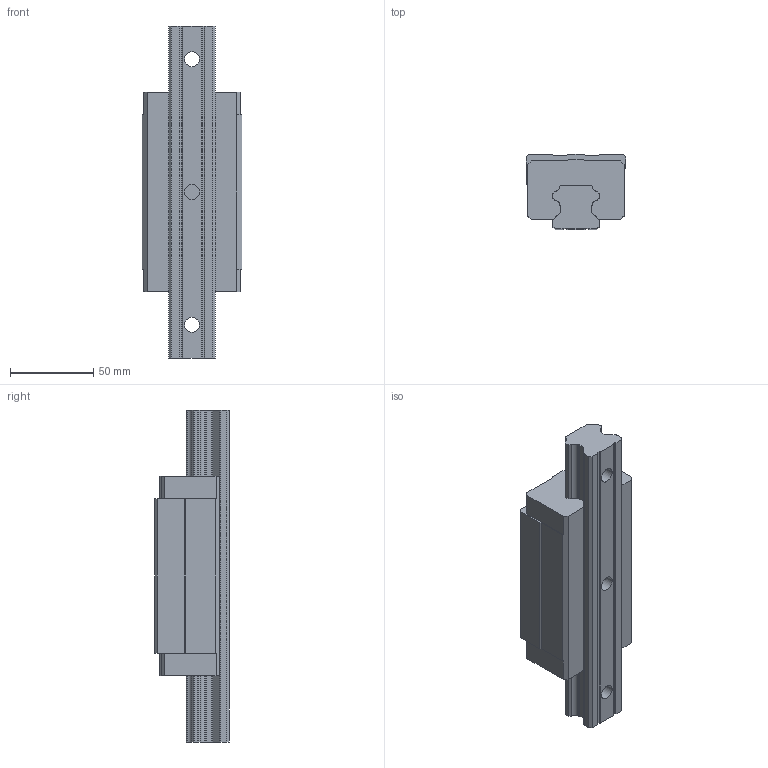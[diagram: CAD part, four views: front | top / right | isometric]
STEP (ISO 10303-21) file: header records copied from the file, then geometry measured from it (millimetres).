
FILE_DESCRIPTION (( 'STEP AP214' ), '1' );
FILE_NAME ('2.1026 Lineaarikelkka HGH30HA.STEP', '2025-09-19T06:28:51', ( '' ), ( '' ), 'SwSTEP 2.0', 'SolidWorks 2025', '' );
FILE_SCHEMA (( 'AUTOMOTIVE_DESIGN' ));
Length unit declared in the file: millimetre
Products named in the file (1): 2.1026 Lineaarikelkka HGH30HA
Bounding box: 60 x 45 x 200 mm (x, y, z)
Volume: 327644.5 mm3; surface area: 58648 mm2
Topology: 2 solids, 2 shells, 159 faces, 444 edges, 296 vertices
Faces by surface type: plane 97, cylinder 62
Entity records: 6915 total; most frequent: CARTESIAN_POINT 900, ORIENTED_EDGE 888, DIRECTION 888, EDGE_CURVE 444, LINE 320, VECTOR 320, VERTEX_POINT 296, AXIS2_PLACEMENT_3D 284
